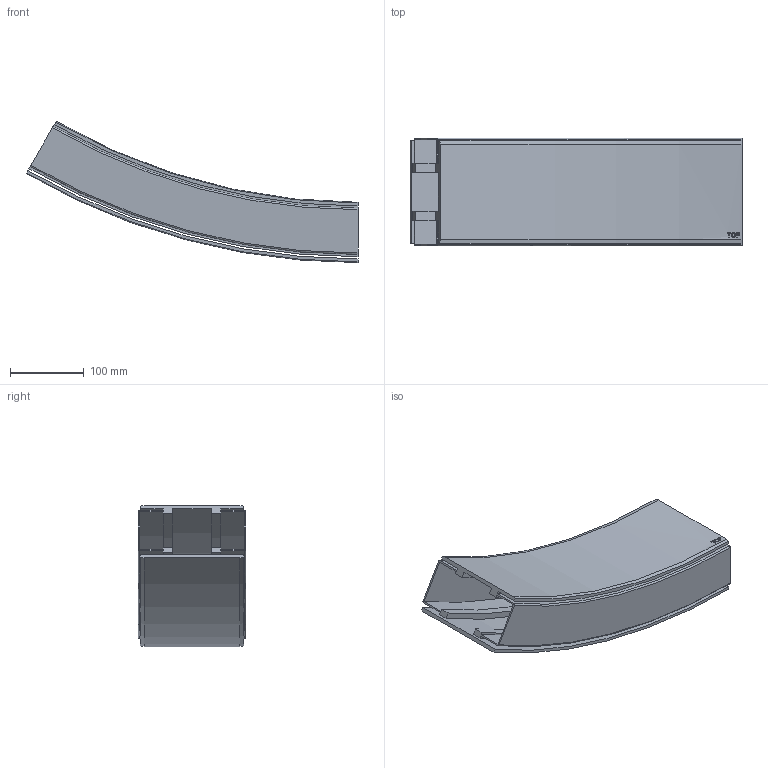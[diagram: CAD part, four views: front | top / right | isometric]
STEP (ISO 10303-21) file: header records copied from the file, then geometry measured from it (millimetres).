
FILE_DESCRIPTION(/* description */ ('VERTIKALKURVA S540 R860'),/* implementation_level */ '2;1');
FILE_NAME(/* name */ '540-5695+140-2000-UPP-01.stp',/* time_stamp */ '2022-09-21T11:15:14+02:00',/* author */ ('Mathias.Dore'),/* organization */ ('CARRYLINE'),/* preprocessor_version */ 'ST-DEVELOPER v19.2',/* originating_system */ 'Autodesk Inventor 2023',/* authorisation */ '');
FILE_SCHEMA (('AUTOMOTIVE_DESIGN { 1 0 10303 214 3 1 1 }'));
Length unit declared in the file: millimetre
Products named in the file (1): 540-5695+140-2000-UPP-01
Bounding box: 451.25 x 146 x 191.93 mm (x, y, z)
Volume: 1034320.1 mm3; surface area: 540436.8 mm2
Topology: 2 solids, 2 shells, 87 faces, 234 edges, 156 vertices
Faces by surface type: plane 40, cylinder 25, bspline 14, cone 4, torus 4
Entity records: 7369 total; most frequent: CARTESIAN_POINT 5170, ORIENTED_EDGE 468, DIRECTION 408, EDGE_CURVE 234, VERTEX_POINT 156, AXIS2_PLACEMENT_3D 141, LINE 126, VECTOR 126
